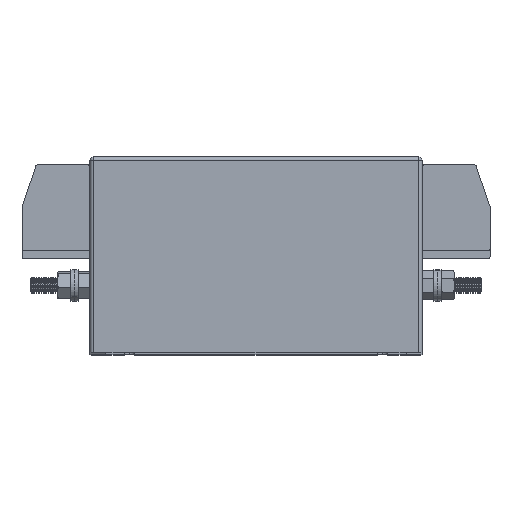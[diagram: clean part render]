
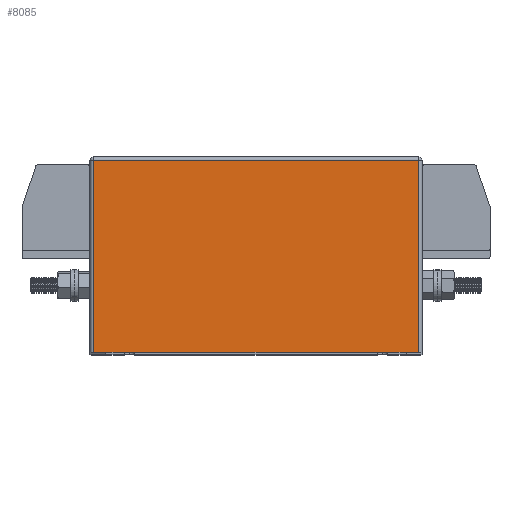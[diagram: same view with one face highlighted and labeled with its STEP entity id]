
A CAD part, top view. The second image highlights one B-rep face of the part: STEP entity #8085.
In plain terms, the highlighted planar face has unit normal (0, 0, 1).
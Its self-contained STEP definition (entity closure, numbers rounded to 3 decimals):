
#34 = VECTOR ( 'NONE', #6430, 1000. ) ;
#257 = DIRECTION ( 'NONE',  ( 0., 0., -1. ) ) ;
#438 = ORIENTED_EDGE ( 'NONE', *, *, #2165, .T. ) ;
#616 = VECTOR ( 'NONE', #9562, 1000. ) ;
#869 = LINE ( 'NONE', #6391, #616 ) ;
#1567 = CARTESIAN_POINT ( 'NONE',  ( 208., 123., -13.5 ) ) ;
#1754 = VERTEX_POINT ( 'NONE', #1567 ) ;
#2028 = EDGE_LOOP ( 'NONE', ( #5751, #2747, #7372, #438 ) ) ;
#2165 = EDGE_CURVE ( 'NONE', #4062, #1754, #9794, .T. ) ;
#2747 = ORIENTED_EDGE ( 'NONE', *, *, #7480, .T. ) ;
#2752 = EDGE_CURVE ( 'NONE', #6923, #4062, #6646, .T. ) ;
#3204 = DIRECTION ( 'NONE',  ( 1., 0., 0. ) ) ;
#3255 = DIRECTION ( 'NONE',  ( 0., 1., 0. ) ) ;
#3312 = VECTOR ( 'NONE', #3204, 1000. ) ;
#4062 = VERTEX_POINT ( 'NONE', #7267 ) ;
#4090 = PLANE ( 'NONE',  #5654 ) ;
#5466 = VECTOR ( 'NONE', #3255, 1000. ) ;
#5654 = AXIS2_PLACEMENT_3D ( 'NONE', #6443, #257, #8813 ) ;
#5668 = CARTESIAN_POINT ( 'NONE',  ( 0., 123., -13.5 ) ) ;
#5751 = ORIENTED_EDGE ( 'NONE', *, *, #6313, .T. ) ;
#5838 = CARTESIAN_POINT ( 'NONE',  ( 2., 123., -13.5 ) ) ;
#6291 = CARTESIAN_POINT ( 'NONE',  ( 208., 125., -13.5 ) ) ;
#6313 = EDGE_CURVE ( 'NONE', #1754, #8237, #8463, .T. ) ;
#6391 = CARTESIAN_POINT ( 'NONE',  ( 2., 125., -13.5 ) ) ;
#6430 = DIRECTION ( 'NONE',  ( -1., 0., 0. ) ) ;
#6443 = CARTESIAN_POINT ( 'NONE',  ( 0., 125., -13.5 ) ) ;
#6646 = LINE ( 'NONE', #7792, #3312 ) ;
#6923 = VERTEX_POINT ( 'NONE', #9429 ) ;
#7267 = CARTESIAN_POINT ( 'NONE',  ( 208., 1.5, -13.5 ) ) ;
#7372 = ORIENTED_EDGE ( 'NONE', *, *, #2752, .T. ) ;
#7480 = EDGE_CURVE ( 'NONE', #8237, #6923, #869, .T. ) ;
#7792 = CARTESIAN_POINT ( 'NONE',  ( 0., 1.5, -13.5 ) ) ;
#8085 = ADVANCED_FACE ( 'NONE', ( #8423 ), #4090, .F. ) ;
#8237 = VERTEX_POINT ( 'NONE', #5838 ) ;
#8423 = FACE_OUTER_BOUND ( 'NONE', #2028, .T. ) ;
#8463 = LINE ( 'NONE', #5668, #34 ) ;
#8813 = DIRECTION ( 'NONE',  ( -1., 0., 0. ) ) ;
#9429 = CARTESIAN_POINT ( 'NONE',  ( 2., 1.5, -13.5 ) ) ;
#9562 = DIRECTION ( 'NONE',  ( 0., -1., 0. ) ) ;
#9794 = LINE ( 'NONE', #6291, #5466 ) ;
